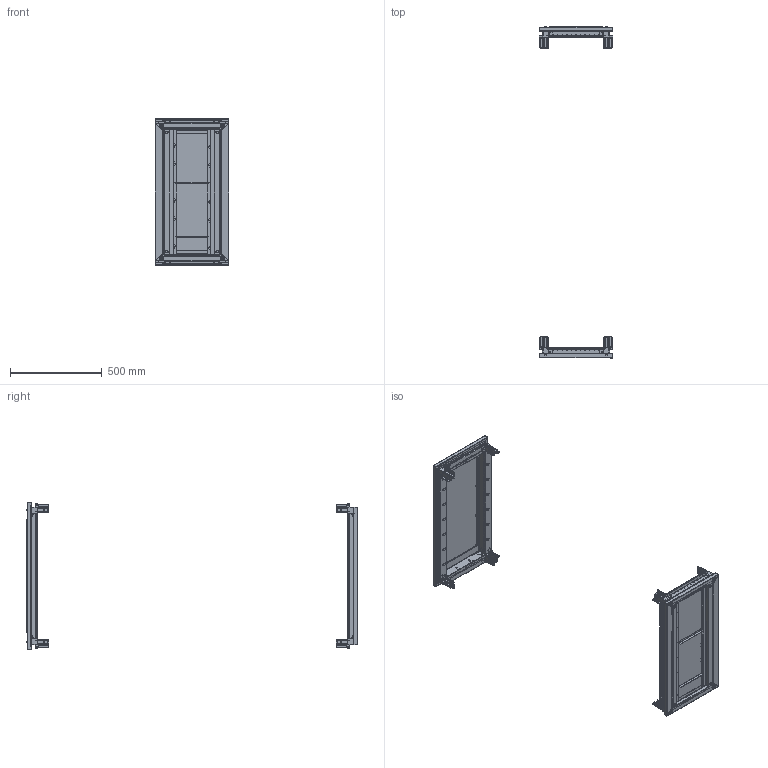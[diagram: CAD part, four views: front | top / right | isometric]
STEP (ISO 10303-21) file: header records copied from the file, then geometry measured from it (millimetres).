
FILE_DESCRIPTION(('CAx-IF Rec.Pracs.---Model Styling and Organization---1.2---2011-12-15','CAx-IF Rec.Pracs.---Geometric and Assembly Validation Properties---4.1---2014-06-16','CAx-IF Rec.Pracs.---PMI Polyline Presentation---2.0---2013-05-24'),'2;1');
FILE_NAME('R5GTB48 (1800).stp','2021-05-06T06:01:26+03:00',(''),(''),'STEP Interface 4.4 by CT CoreTechnologie','3D_Evolution4.4 by CT CoreTechnologie','');
FILE_SCHEMA(('AUTOMOTIVE_DESIGN { 1 0 10303 214 1 1 1 1 }'));
Length unit declared in the file: millimetre
Products named in the file (23): R5KTB48; CTE48; A0500003; QB03T075; QB03C075_Piegato; AC00C061_AC00C061; GUARNIZIONE  TETTI_400x800; GUARNIZIONE TETTI  R. CAVI_400x800; A3400002; QB01T040; QB01C030; AC00C469S-OLD; QB01C040; AC00C469D-OLD; QB03C127; CBA48; QB04C008; QB04C005; Ac00c561; QB04T028; QB04C021; QB04C036; AC00C192
Assembly tree (51 placements, depth 4):
  R5KTB48
    CTE48
      A0500003  x4
      QB03T075
        QB03C075_Piegato
        AC00C061_AC00C061
        GUARNIZIONE  TETTI_400x800
        GUARNIZIONE TETTI  R. CAVI_400x800
      A3400002  x8
      QB01T040
        QB01C030  x2
        AC00C469S-OLD  x2
        QB01C040  x2
        AC00C469D-OLD  x2
      QB03C127
    CBA48
      QB04C008  x2
      QB04C005
      Ac00c561  x10
      QB04T028
        QB04C021  x2
        QB04C036  x2
        GUARNIZIONE  TETTI_400x800
      QB01T040
        QB01C030  x2
        AC00C469S-OLD  x2
        QB01C040  x2
        AC00C469D-OLD  x2
      AC00C192  x2
Bounding box: 400.5 x 1806.6 x 799 mm (x, y, z)
Surface area: 3441447.7 mm2 (no closed solid volume)
Topology: 0 solids, 89 shells, 6861 faces, 18108 edges, 11678 vertices
Faces by surface type: plane 3782, cylinder 2381, bspline 698
Entity records: 67541 total; most frequent: CARTESIAN_POINT 15577, ORIENTED_EDGE 10566, DIRECTION 10325, EDGE_CURVE 5283, VECTOR 3723, LINE 3723, VERTEX_POINT 3453, AXIS2_PLACEMENT_3D 3301
